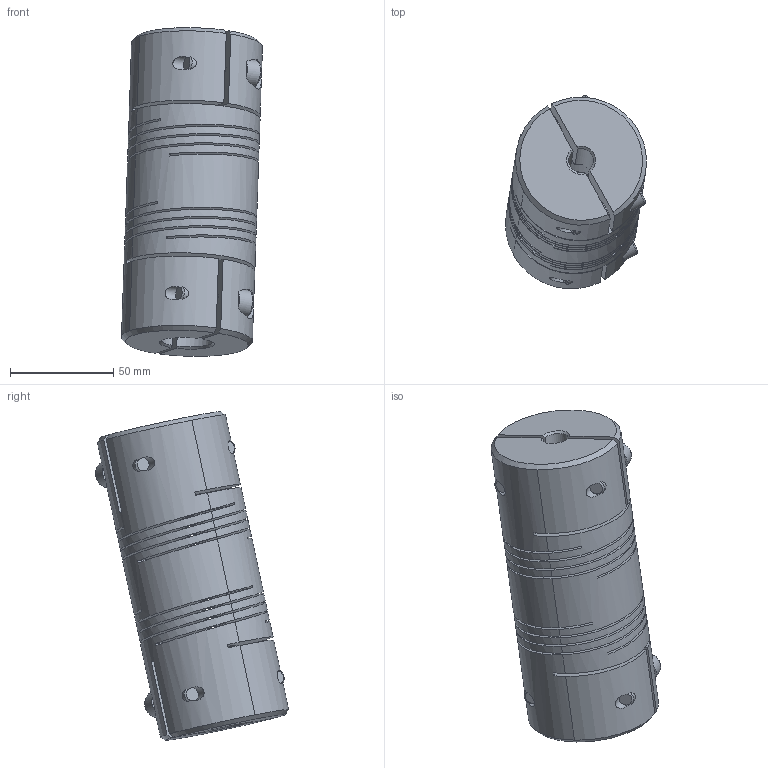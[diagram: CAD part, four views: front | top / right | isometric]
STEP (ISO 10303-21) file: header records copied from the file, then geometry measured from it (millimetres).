
FILE_DESCRIPTION((''),'2;1');
FILE_NAME('723_64','2026-02-24T',('SYSTEM'),(''),'PRO/ENGINEER BY PARAMETRIC TECHNOLOGY CORPORATION, 2016360','PRO/ENGINEER BY PARAMETRIC TECHNOLOGY CORPORATION, 2016360','');
FILE_SCHEMA(('AUTOMOTIVE_DESIGN { 1 0 10303 214 1 1 1 1 }'));
Length unit declared in the file: inch
Products named in the file (1): 723_64
Bounding box: 68.33 x 93.52 x 159.18 mm (x, y, z)
Volume: 373203.7 mm3; surface area: 101535.4 mm2
Topology: 1 solids, 1 shells, 204 faces, 608 edges, 400 vertices
Faces by surface type: plane 84, cylinder 68, cone 24, torus 16, bspline 12
Entity records: 10926 total; most frequent: CARTESIAN_POINT 4002, ORIENTED_EDGE 1200, DIRECTION 1018, EDGE_CURVE 600, VERTEX_POINT 400, AXIS2_PLACEMENT_3D 386, VECTOR 246, LINE 246
